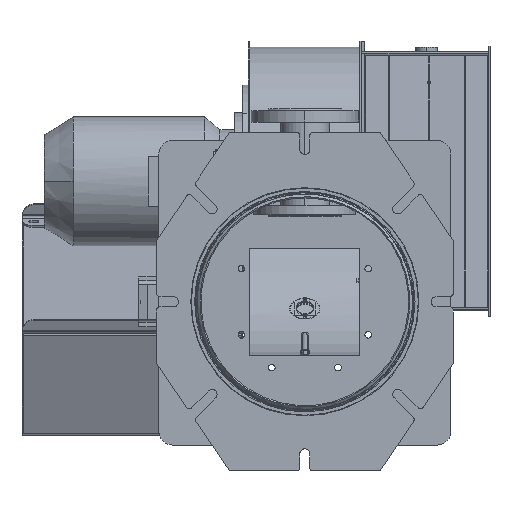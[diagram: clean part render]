
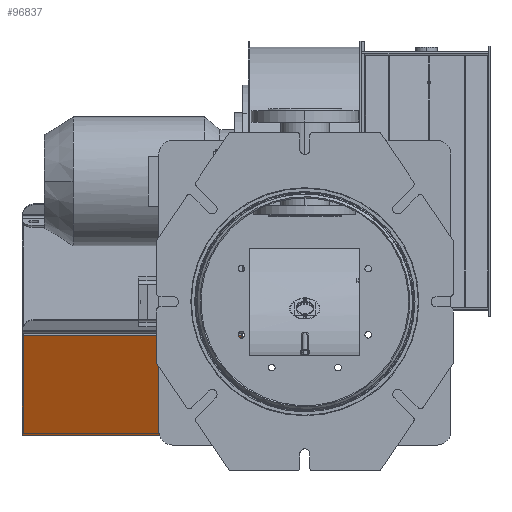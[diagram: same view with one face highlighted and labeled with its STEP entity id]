
A CAD part, left-side view. The second image highlights one B-rep face of the part: STEP entity #96837.
In plain terms, the highlighted planar face has unit normal (-0.906, 0, -0.423).
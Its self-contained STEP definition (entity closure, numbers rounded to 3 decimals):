
#719 = EDGE_CURVE ( 'NONE', #119983, #102961, #114909, .T. ) ;
#3173 = ORIENTED_EDGE ( 'NONE', *, *, #719, .T. ) ;
#3672 = CARTESIAN_POINT ( 'NONE',  ( 209.62, 513.249, -61.034 ) ) ;
#5327 = CARTESIAN_POINT ( 'NONE',  ( 209.62, 113.249, -61.034 ) ) ;
#5985 = VERTEX_POINT ( 'NONE', #140684 ) ;
#16602 = CARTESIAN_POINT ( 'NONE',  ( 209.62, 513.249, -61.034 ) ) ;
#16936 = LINE ( 'NONE', #55396, #25610 ) ;
#20525 = DIRECTION ( 'NONE',  ( 0.423, 0., -0.906 ) ) ;
#22055 = PLANE ( 'NONE',  #40980 ) ;
#24169 = VECTOR ( 'NONE', #140414, 1000. ) ;
#25610 = VECTOR ( 'NONE', #20525, 1000. ) ;
#25640 = ORIENTED_EDGE ( 'NONE', *, *, #76117, .T. ) ;
#26208 = DIRECTION ( 'NONE',  ( 0., -1., 0. ) ) ;
#40980 = AXIS2_PLACEMENT_3D ( 'NONE', #78740, #123232, #100966 ) ;
#44727 = EDGE_LOOP ( 'NONE', ( #3173, #62574, #25640, #137739 ) ) ;
#52123 = VECTOR ( 'NONE', #26208, 1000. ) ;
#55396 = CARTESIAN_POINT ( 'NONE',  ( 209.62, 513.249, -61.034 ) ) ;
#62574 = ORIENTED_EDGE ( 'NONE', *, *, #131491, .T. ) ;
#67247 = VERTEX_POINT ( 'NONE', #3672 ) ;
#67921 = EDGE_CURVE ( 'NONE', #5985, #119983, #82170, .T. ) ;
#76117 = EDGE_CURVE ( 'NONE', #67247, #5985, #16936, .T. ) ;
#78740 = CARTESIAN_POINT ( 'NONE',  ( 209.62, 113.249, -61.034 ) ) ;
#81946 = CARTESIAN_POINT ( 'NONE',  ( 294.143, 113.249, -242.296 ) ) ;
#82170 = LINE ( 'NONE', #81946, #52123 ) ;
#91203 = CARTESIAN_POINT ( 'NONE',  ( 209.62, 113.249, -61.034 ) ) ;
#94794 = LINE ( 'NONE', #16602, #24169 ) ;
#96837 = ADVANCED_FACE ( 'NONE', ( #128873 ), #22055, .T. ) ;
#100966 = DIRECTION ( 'NONE',  ( 0., 1., 0. ) ) ;
#102608 = DIRECTION ( 'NONE',  ( -0.423, 0., 0.906 ) ) ;
#102961 = VERTEX_POINT ( 'NONE', #5327 ) ;
#114909 = LINE ( 'NONE', #91203, #144893 ) ;
#119983 = VERTEX_POINT ( 'NONE', #128806 ) ;
#123232 = DIRECTION ( 'NONE',  ( -0.906, 0., -0.423 ) ) ;
#128806 = CARTESIAN_POINT ( 'NONE',  ( 294.143, 113.249, -242.296 ) ) ;
#128873 = FACE_OUTER_BOUND ( 'NONE', #44727, .T. ) ;
#131491 = EDGE_CURVE ( 'NONE', #102961, #67247, #94794, .T. ) ;
#137739 = ORIENTED_EDGE ( 'NONE', *, *, #67921, .T. ) ;
#140414 = DIRECTION ( 'NONE',  ( 0., 1., 0. ) ) ;
#140684 = CARTESIAN_POINT ( 'NONE',  ( 294.143, 513.249, -242.296 ) ) ;
#144893 = VECTOR ( 'NONE', #102608, 1000. ) ;
